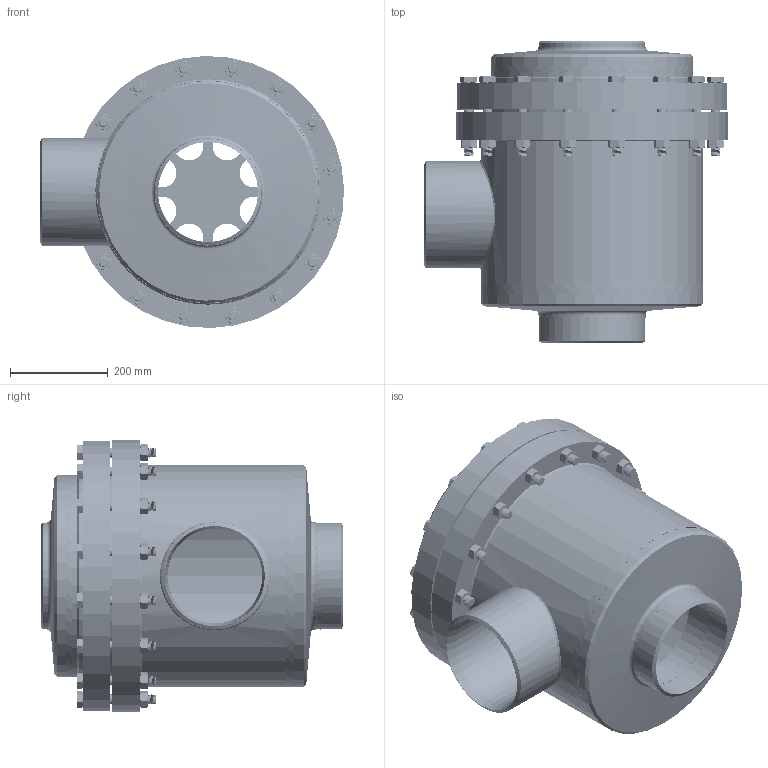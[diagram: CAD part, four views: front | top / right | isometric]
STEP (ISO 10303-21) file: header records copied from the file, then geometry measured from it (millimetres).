
FILE_DESCRIPTION (( 'STEP AP214' ), '1' );
FILE_NAME ('TR47000B23-DN200_R1_PS25.STEP', '2005-08-19T11:28:58', ( 'Herr Grams' ), ( 'AWP GmbH' ), 'SwSTEP 2.0', 'SolidWorks 2002296', '' );
FILE_SCHEMA (( 'AUTOMOTIVE_DESIGN' ));
Length unit declared in the file: millimetre
Products named in the file (21): TR47000B23-DN200_R1_PS25; Deck-kpl47020B23-DN200_PS25_R1_Standard; Deckel47000B23_DN200_PS25_R1_Standard; bead-deck470-200_Standard; Boden-f-Deck47000B23_DN200_PS25_R1_DN200; Geh-kpl47000B23-DN200_PS25_R1_Standard; Kopfring47000B23_DN200_PS25_Standard; Boden47000B23_DN200_PS25_R1_DN200; RohrstutzA47000B23-DN200_PS25_R1_Standard; Geh47000B23_DN200_PS25_R1_Standard; Kehlnaht23-3_Standard; Kehlnaht23-2_Standard; bead23-5_Standard; bead23-4_Standard; bead23-1_Standard; RohrstutzE00000-DN125-200_PS25_R1_DN 200; Andruckplatte47000B23-DN200_Standard; Führungsring47000B23-DN200_Standard; loser Flansch47000B23_DN200_PS25_Standard; Sechskantschraube-DIN933-M20x150_M20x150; Sechskantmutter-DIN934_M20
Assembly tree (50 placements, depth 3):
  TR47000B23-DN200_R1_PS25
    Sechskantmutter-DIN934_M20  x16
    Sechskantschraube-DIN933-M20x150_M20x150  x16
    Geh-kpl47000B23-DN200_PS25_R1_Standard
      Kopfring47000B23_DN200_PS25_Standard
      Geh47000B23_DN200_PS25_R1_Standard
      RohrstutzE00000-DN125-200_PS25_R1_DN 200
      bead23-5_Standard
      RohrstutzA47000B23-DN200_PS25_R1_Standard
      Kehlnaht23-3_Standard
      bead23-4_Standard
      Kehlnaht23-2_Standard
      bead23-1_Standard
      Boden47000B23_DN200_PS25_R1_DN200
    Deck-kpl47020B23-DN200_PS25_R1_Standard
      Deckel47000B23_DN200_PS25_R1_Standard
      Boden-f-Deck47000B23_DN200_PS25_R1_DN200
      bead-deck470-200_Standard
    Andruckplatte47000B23-DN200_Standard
    loser Flansch47000B23_DN200_PS25_Standard
    Führungsring47000B23-DN200_Standard
Bounding box: 622.43 x 619.5 x 556.87 mm (x, y, z)
Volume: 32122097.3 mm3; surface area: 4200465 mm2
Topology: 48 solids, 48 shells, 1789 faces, 4486 edges, 2842 vertices
Faces by surface type: cylinder 862, cone 520, plane 351, bspline 48, torus 8
Entity records: 39427 total; most frequent: CARTESIAN_POINT 26737, DIRECTION 2587, ORIENTED_EDGE 2312, EDGE_CURVE 1156, AXIS2_PLACEMENT_3D 1111, VERTEX_POINT 742, EDGE_LOOP 678, CIRCLE 590
